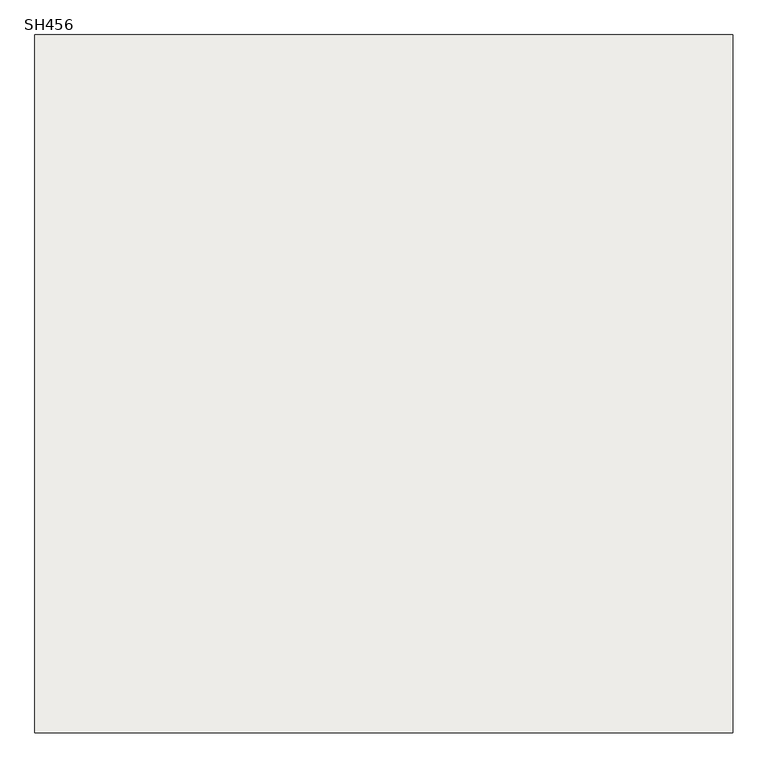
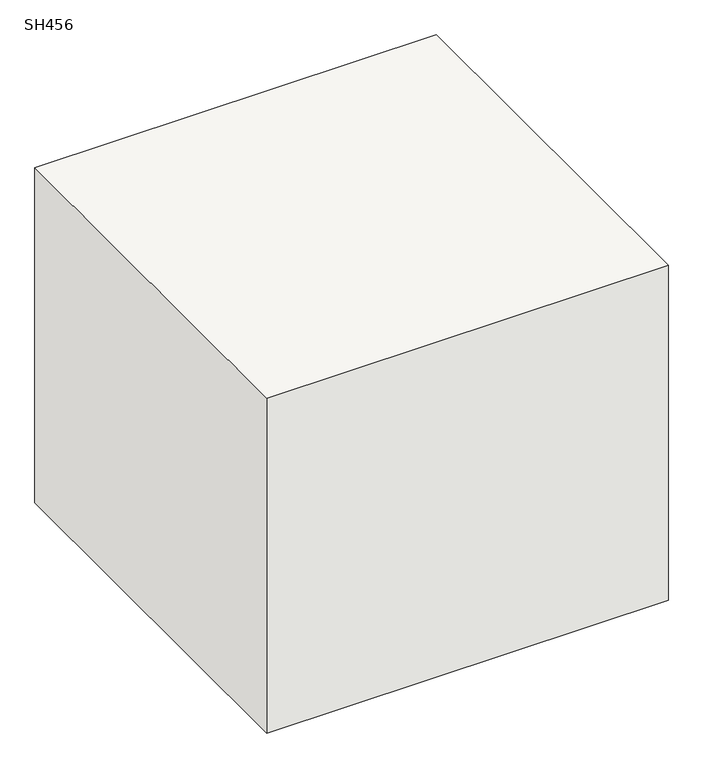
"""IFC4 building model written with IfcOpenShell, lengths in millimetres: slab geometry, 柱形_SH : SH456."""

from ifc_helpers import new_model, si_unit, frame, origin, place, context, project, spatial, polyline, outline, extrude, source, transform, mapped, element, save


def sh456_0ef26143(model_context):
    return source(origin(), model_context, "Body", "SweptSolid", [
        extrude(outline(polyline([(510.0, 510.0), (510.0, -510.0), (-510.0, -510.0), (-510.0, 510.0), (510.0, 510.0)])), frame((0.0, 0.0, -900.0), z_axis=(0.0, 0.0, 1.0), x_axis=(1.0, 0.0, 0.0)), (0.0, 0.0, 1.0), 900.0),
    ])


if __name__ == "__main__":
    model = new_model("IFC4")
    model_context = context("Model", 3, world=origin())
    ifc_project = project(units=[si_unit("LENGTHUNIT", "METRE", prefix="MILLI")], contexts=[model_context])
    site = spatial("IfcSite", under=ifc_project)
    building = spatial("IfcBuilding", under=site)
    placement = place(None, origin())
    sh456_shape = sh456_0ef26143(model_context)
    element("IfcSlab", 1, ObjectType="柱形_SH : SH456", at=placement, inside=building, context=model_context, shape_type="MappedRepresentation", body=[
        mapped(sh456_shape, transform((0.0, 0.0, 0.0), x_axis=(1.0, 0.0, 0.0), y_axis=(0.0, 1.0, 0.0), z_axis=(0.0, 0.0, 1.0))),
    ])
    save(model, "model.ifc")
